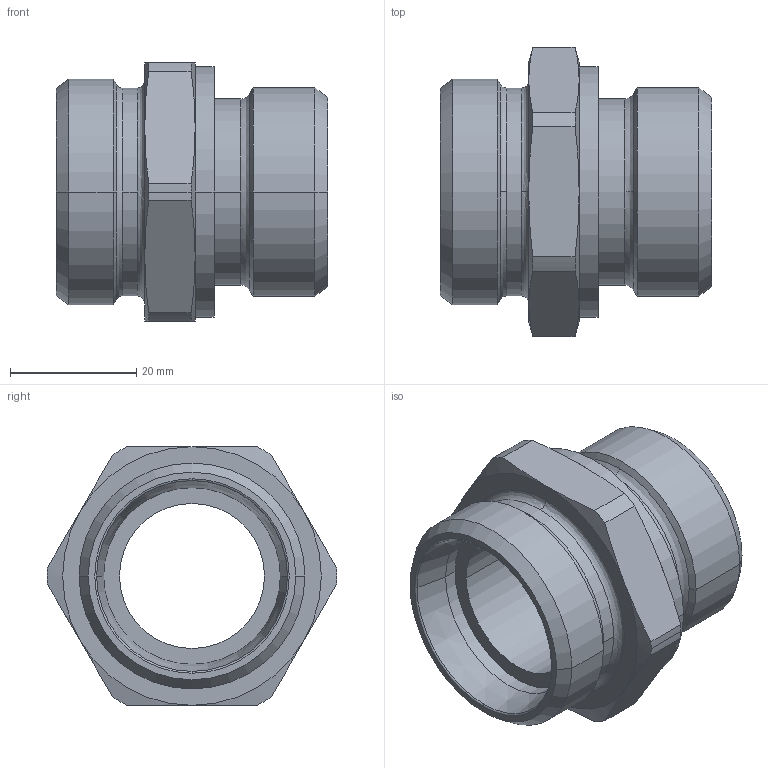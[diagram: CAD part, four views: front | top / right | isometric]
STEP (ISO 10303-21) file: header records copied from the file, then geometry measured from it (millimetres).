
FILE_DESCRIPTION((''),'2;1');
FILE_NAME('100511.stp','2007-10-30T14:17:12',(''),(''),'AutoCAD STEP 2000i','AutoCAD 2000i',', , ');
FILE_SCHEMA(('CONFIG_CONTROL_DESIGN'));
Length unit declared in the file: millimetre
Products named in the file (2): 100511.0; CHIAVE SMUSSATA#0
Assembly tree (1 placements, depth 2):
  100511.0
    CHIAVE SMUSSATA#0
Bounding box: 43 x 45.9 x 41 mm (x, y, z)
Volume: 22429.2 mm3; surface area: 10413.4 mm2
Topology: 1 solids, 1 shells, 75 faces, 185 edges, 117 vertices
Faces by surface type: cylinder 24, cone 24, plane 13, bspline 12, torus 2
Entity records: 2835 total; most frequent: CARTESIAN_POINT 955, DIRECTION 410, ORIENTED_EDGE 370, EDGE_CURVE 185, AXIS2_PLACEMENT_3D 184, CIRCLE 119, VERTEX_POINT 117, EDGE_LOOP 82
